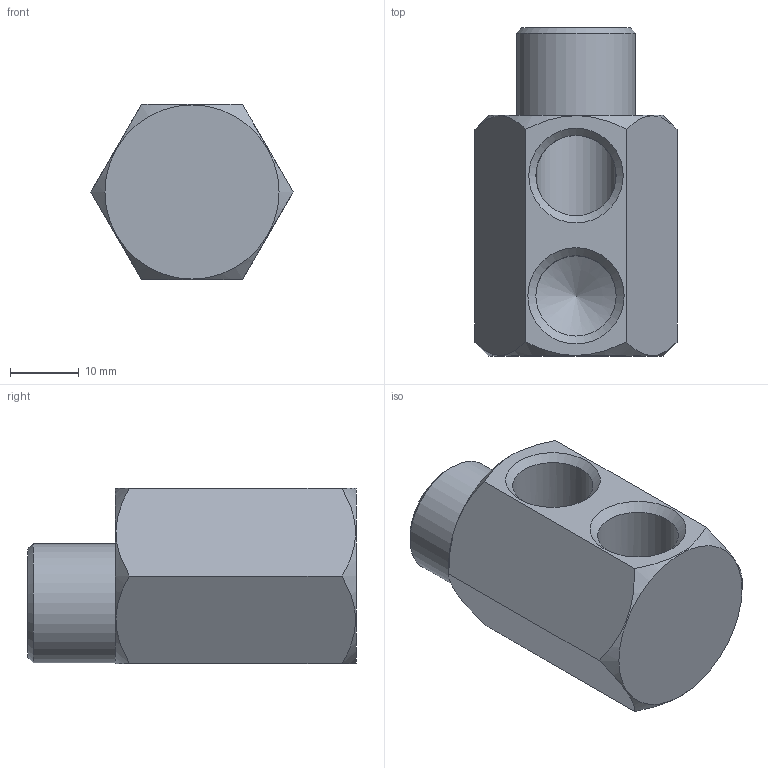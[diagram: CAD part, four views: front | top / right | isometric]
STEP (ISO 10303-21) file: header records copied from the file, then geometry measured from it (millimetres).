
FILE_DESCRIPTION(/* description */ (''),/* implementation_level */ '2;1');
FILE_NAME(/* name */ 'C:/Users/drich/Desktop/HF146H-4 v2.step',/* time_stamp */ '2019-11-18T14:38:15-06:00',/* author */ (''),/* organization */ (''),/* preprocessor_version */ 'ST-DEVELOPER v18',/* originating_system */ 'Autodesk Translation Framework v8.12.0.6',/* authorisation */ '');
FILE_SCHEMA (('CONFIG_CONTROL_DESIGN','AUTOMOTIVE_DESIGN { 1 0 10303 214 3 1 1 }'));
Length unit declared in the file: inch
Products named in the file (2): HF146H-4; HF146H-4_1
Assembly tree (1 placements, depth 2):
  HF146H-4
    HF146H-4_1
Bounding box: 29.33 x 47.62 x 25.4 mm (x, y, z)
Volume: 15606.7 mm3; surface area: 6742.2 mm2
Topology: 1 solids, 1 shells, 24 faces, 63 edges, 41 vertices
Faces by surface type: cone 10, plane 9, cylinder 5
Full cylindrical faces by diameter (mm): 6.909 x1, 11.668 x3, 17.272 x1
Entity records: 838 total; most frequent: CARTESIAN_POINT 208, ORIENTED_EDGE 124, DIRECTION 121, EDGE_CURVE 62, AXIS2_PLACEMENT_3D 51, VERTEX_POINT 41, EDGE_LOOP 29, FACE_OUTER_BOUND 24
